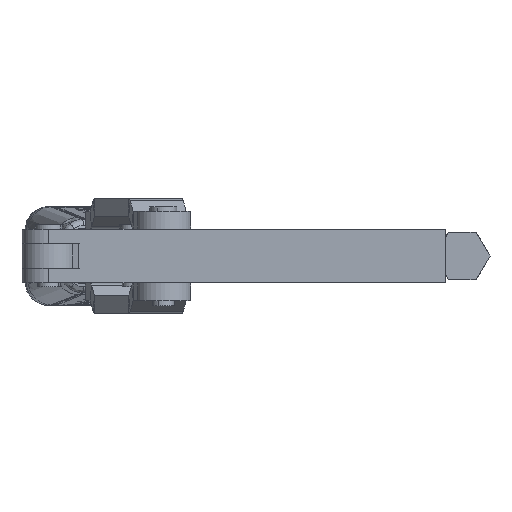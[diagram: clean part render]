
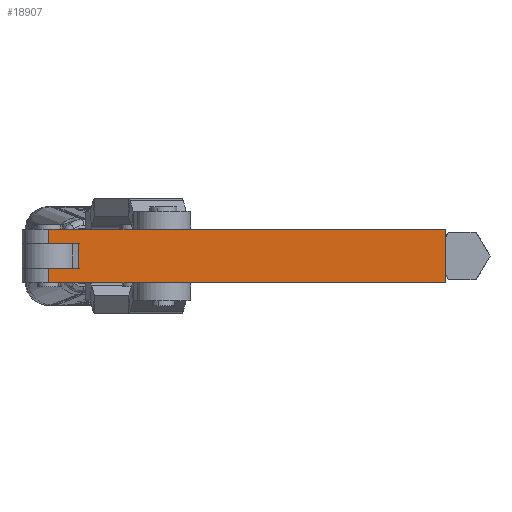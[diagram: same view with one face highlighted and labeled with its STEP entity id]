
A CAD part, front view. The second image highlights one B-rep face of the part: STEP entity #18907.
In plain terms, the highlighted planar face has unit normal (0, -1, 0).
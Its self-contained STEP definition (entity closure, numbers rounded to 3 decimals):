
#168 = VERTEX_POINT ( 'NONE', #10672 ) ;
#300 = CARTESIAN_POINT ( 'NONE',  ( -20., -9.525, -4.5 ) ) ;
#773 = CARTESIAN_POINT ( 'NONE',  ( -150., -9.525, 9.525 ) ) ;
#1457 = EDGE_CURVE ( 'NONE', #23675, #10123, #11939, .T. ) ;
#1749 = CARTESIAN_POINT ( 'NONE',  ( -150., -9.525, 9.525 ) ) ;
#3013 = DIRECTION ( 'NONE',  ( 0., 0., -1. ) ) ;
#3021 = DIRECTION ( 'NONE',  ( 0., 0., -1. ) ) ;
#3562 = LINE ( 'NONE', #15336, #20506 ) ;
#3699 = DIRECTION ( 'NONE',  ( 1., 0., 0. ) ) ;
#3722 = EDGE_LOOP ( 'NONE', ( #24036, #21881, #23497, #8361, #24440, #9073, #10940, #16138 ) ) ;
#4086 = PLANE ( 'NONE',  #9533 ) ;
#4190 = EDGE_CURVE ( 'NONE', #27907, #23072, #16000, .T. ) ;
#5033 = VECTOR ( 'NONE', #3699, 1000. ) ;
#6286 = DIRECTION ( 'NONE',  ( 0., 1., 0. ) ) ;
#6781 = DIRECTION ( 'NONE',  ( 1., 0., 0. ) ) ;
#7378 = EDGE_CURVE ( 'NONE', #168, #10123, #24913, .T. ) ;
#7530 = CARTESIAN_POINT ( 'NONE',  ( -9.525, -9.525, 9.525 ) ) ;
#7773 = DIRECTION ( 'NONE',  ( 1., 0., 0. ) ) ;
#7836 = LINE ( 'NONE', #773, #18891 ) ;
#8138 = CARTESIAN_POINT ( 'NONE',  ( -20., -9.525, 4.5 ) ) ;
#8361 = ORIENTED_EDGE ( 'NONE', *, *, #4190, .F. ) ;
#9073 = ORIENTED_EDGE ( 'NONE', *, *, #23479, .T. ) ;
#9533 = AXIS2_PLACEMENT_3D ( 'NONE', #23417, #6286, #21757 ) ;
#9797 = CARTESIAN_POINT ( 'NONE',  ( -20., -9.525, 4.5 ) ) ;
#10123 = VERTEX_POINT ( 'NONE', #16717 ) ;
#10125 = VECTOR ( 'NONE', #26306, 1000. ) ;
#10672 = CARTESIAN_POINT ( 'NONE',  ( -150., -9.525, -9.525 ) ) ;
#10940 = ORIENTED_EDGE ( 'NONE', *, *, #7378, .T. ) ;
#11939 = LINE ( 'NONE', #7530, #23002 ) ;
#12671 = CARTESIAN_POINT ( 'NONE',  ( -9.525, -9.525, 9.525 ) ) ;
#12898 = VECTOR ( 'NONE', #24735, 1000. ) ;
#13119 = DIRECTION ( 'NONE',  ( 0., 0., 1. ) ) ;
#13804 = EDGE_CURVE ( 'NONE', #27948, #27907, #22690, .T. ) ;
#13818 = VERTEX_POINT ( 'NONE', #8138 ) ;
#14655 = VECTOR ( 'NONE', #7773, 1000. ) ;
#15295 = CARTESIAN_POINT ( 'NONE',  ( -9.525, -9.525, 9.525 ) ) ;
#15336 = CARTESIAN_POINT ( 'NONE',  ( -20., -9.525, -4.5 ) ) ;
#15821 = EDGE_CURVE ( 'NONE', #13818, #23072, #26442, .T. ) ;
#16000 = LINE ( 'NONE', #15295, #10125 ) ;
#16138 = ORIENTED_EDGE ( 'NONE', *, *, #1457, .F. ) ;
#16717 = CARTESIAN_POINT ( 'NONE',  ( -9.525, -9.525, -9.525 ) ) ;
#16831 = CARTESIAN_POINT ( 'NONE',  ( -9.525, -9.525, 9.525 ) ) ;
#18056 = CARTESIAN_POINT ( 'NONE',  ( -20., -9.525, -4.5 ) ) ;
#18071 = LINE ( 'NONE', #18056, #12898 ) ;
#18891 = VECTOR ( 'NONE', #3021, 1000. ) ;
#18907 = ADVANCED_FACE ( 'NONE', ( #21556 ), #4086, .F. ) ;
#20506 = VECTOR ( 'NONE', #13119, 1000. ) ;
#21556 = FACE_OUTER_BOUND ( 'NONE', #3722, .T. ) ;
#21757 = DIRECTION ( 'NONE',  ( -1., 0., 0. ) ) ;
#21881 = ORIENTED_EDGE ( 'NONE', *, *, #27454, .T. ) ;
#22112 = VERTEX_POINT ( 'NONE', #300 ) ;
#22690 = LINE ( 'NONE', #16831, #5033 ) ;
#23002 = VECTOR ( 'NONE', #3013, 1000. ) ;
#23072 = VERTEX_POINT ( 'NONE', #25448 ) ;
#23417 = CARTESIAN_POINT ( 'NONE',  ( -9.525, -9.525, 9.525 ) ) ;
#23479 = EDGE_CURVE ( 'NONE', #27948, #168, #7836, .T. ) ;
#23497 = ORIENTED_EDGE ( 'NONE', *, *, #15821, .T. ) ;
#23675 = VERTEX_POINT ( 'NONE', #28190 ) ;
#24036 = ORIENTED_EDGE ( 'NONE', *, *, #28129, .F. ) ;
#24440 = ORIENTED_EDGE ( 'NONE', *, *, #13804, .F. ) ;
#24735 = DIRECTION ( 'NONE',  ( 1., 0., 0. ) ) ;
#24913 = LINE ( 'NONE', #26599, #26993 ) ;
#25448 = CARTESIAN_POINT ( 'NONE',  ( -9.525, -9.525, 4.5 ) ) ;
#26306 = DIRECTION ( 'NONE',  ( 0., 0., -1. ) ) ;
#26442 = LINE ( 'NONE', #9797, #14655 ) ;
#26599 = CARTESIAN_POINT ( 'NONE',  ( -9.525, -9.525, -9.525 ) ) ;
#26993 = VECTOR ( 'NONE', #6781, 1000. ) ;
#27454 = EDGE_CURVE ( 'NONE', #22112, #13818, #3562, .T. ) ;
#27907 = VERTEX_POINT ( 'NONE', #12671 ) ;
#27948 = VERTEX_POINT ( 'NONE', #1749 ) ;
#28129 = EDGE_CURVE ( 'NONE', #22112, #23675, #18071, .T. ) ;
#28190 = CARTESIAN_POINT ( 'NONE',  ( -9.525, -9.525, -4.5 ) ) ;
